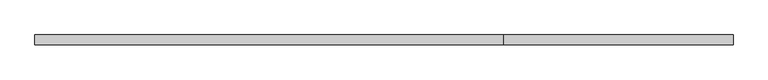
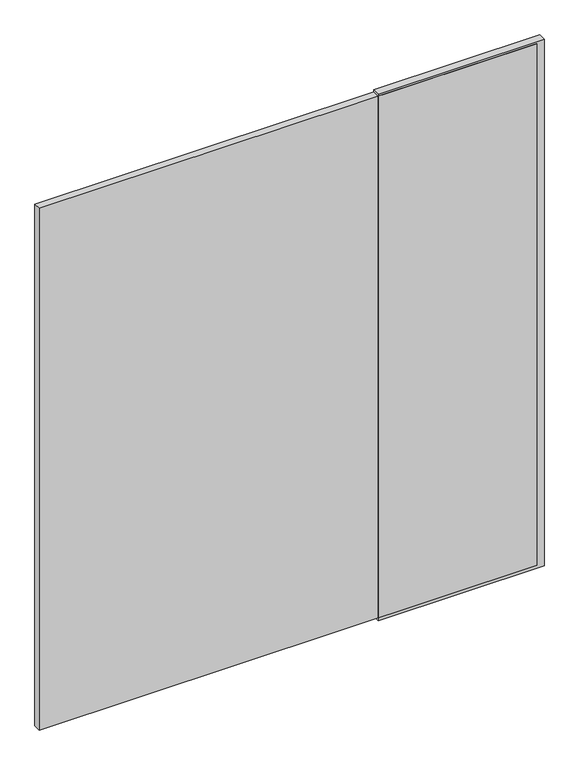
"""IFC4 building model written with IfcOpenShell, lengths in millimetres: plate geometry, Vitré."""

from ifc_helpers import new_model, si_unit, frame, origin, origin_with_axes, place, context, project, spatial, polyline, outline, extrude, source, transform, mapped, element, save


def plate_714e132c(model_context):
    return source(origin(), model_context, "Body", "SweptSolid", [
        extrude(outline(polyline([(-1395.0, -20.0), (-1395.0, 20.0), (1355.1250003, 20.0), (1355.1250003, -20.0), (-1395.0, -20.0)])), frame((0.0, 0.0, 17.375), z_axis=(0.0, 0.0, 1.0), x_axis=(1.0, 0.0, 0.0)), (0.0, 0.0, 1.0), 3047.625),
        extrude(outline(polyline([(477.625, 20.0), (1395.0, 20.0), (1395.0, -20.0), (477.625, -20.0), (477.625, 20.0)])), origin_with_axes(), (0.0, 0.0, 1.0), 3077.375),
    ])


if __name__ == "__main__":
    model = new_model("IFC4")
    model_context = context("Model", 3, world=origin())
    ifc_project = project(units=[si_unit("LENGTHUNIT", "METRE", prefix="MILLI")], contexts=[model_context])
    site = spatial("IfcSite", under=ifc_project)
    building = spatial("IfcBuilding", under=site)
    placement = place(None, origin())
    plate_shape = plate_714e132c(model_context)
    element("IfcPlate", 1, ObjectType="Vitré", at=placement, inside=building, context=model_context, shape_type="MappedRepresentation", body=[
        mapped(plate_shape, transform((0.0, 0.0, 0.0), x_axis=(1.0, 0.0, 0.0), y_axis=(0.0, 1.0, 0.0), z_axis=(0.0, 0.0, 1.0))),
    ])
    save(model, "model.ifc")
